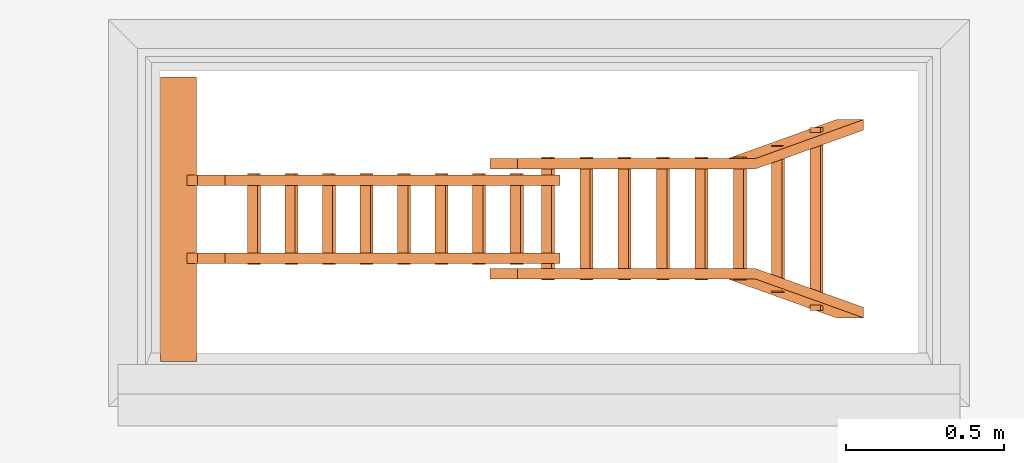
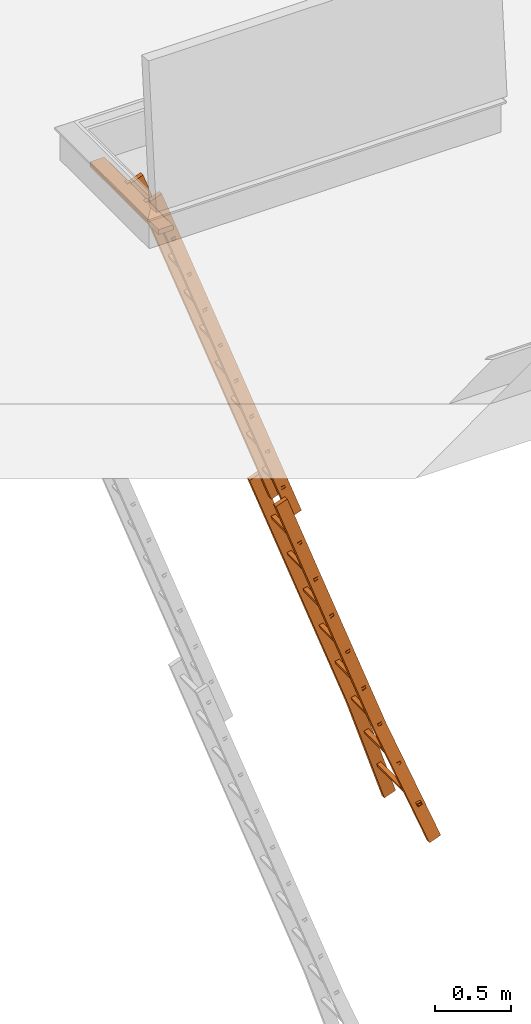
# One storey, part 4 of 28: 1 proxy, 2 openings.
"""IFC2X3 building model written with IfcOpenShell, lengths in millimetres."""

from ifc_helpers import new_model, entity, si_unit, converted_unit, derived_unit, direction, frame, frame_2d, origin, origin_2d_with_axis, place, context, subcontext, project, spatial, polyline, circle_curve, parameter, trimmed, segment, composite_curve, rectangle, outline, extrude, source, transform, mapped, type_object, type_shapes, element, save


model = new_model("IFC2X3")

# Units and contexts
model_context = context("Model", 3, precision=0.01, world=origin(), true_north=direction((6.12303176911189e-17, 1.0)))
body_context = subcontext(model_context, "Body", "Model", "MODEL_VIEW")
ifc_project = project(units=[si_unit("LENGTHUNIT", "METRE", prefix="MILLI"), si_unit("AREAUNIT", "SQUARE_METRE"), si_unit("VOLUMEUNIT", "CUBIC_METRE"), converted_unit("PLANEANGLEUNIT", "DEGREE", entity("IfcRatioMeasure", 0.0174532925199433), si_unit("PLANEANGLEUNIT", "RADIAN"), dimensions=[0, 0, 0, 0, 0, 0, 0]), si_unit("MASSUNIT", "GRAM", prefix="KILO"), derived_unit("MASSDENSITYUNIT", [(si_unit("MASSUNIT", "GRAM", prefix="KILO"), 1), (si_unit("LENGTHUNIT", "METRE"), -3)]), si_unit("TIMEUNIT", "SECOND"), si_unit("FREQUENCYUNIT", "HERTZ"), si_unit("THERMODYNAMICTEMPERATUREUNIT", "DEGREE_CELSIUS"), derived_unit("THERMALTRANSMITTANCEUNIT", [(si_unit("MASSUNIT", "GRAM", prefix="KILO"), 1), (si_unit("THERMODYNAMICTEMPERATUREUNIT", "KELVIN"), -1), (si_unit("TIMEUNIT", "SECOND"), -3)]), derived_unit("VOLUMETRICFLOWRATEUNIT", [(si_unit("LENGTHUNIT", "METRE"), 3), (si_unit("TIMEUNIT", "SECOND"), -1)]), si_unit("ELECTRICCURRENTUNIT", "AMPERE"), si_unit("ELECTRICVOLTAGEUNIT", "VOLT"), si_unit("POWERUNIT", "WATT"), si_unit("FORCEUNIT", "NEWTON", prefix="KILO"), si_unit("ILLUMINANCEUNIT", "LUX"), si_unit("LUMINOUSFLUXUNIT", "LUMEN"), si_unit("LUMINOUSINTENSITYUNIT", "CANDELA"), derived_unit("USERDEFINED", [(si_unit("MASSUNIT", "GRAM", prefix="KILO"), -1), (si_unit("LENGTHUNIT", "METRE"), -2), (si_unit("TIMEUNIT", "SECOND"), 3), (si_unit("LUMINOUSFLUXUNIT", "LUMEN"), 1)]), derived_unit("LINEARVELOCITYUNIT", [(si_unit("LENGTHUNIT", "METRE"), 1), (si_unit("TIMEUNIT", "SECOND"), -1)]), si_unit("PRESSUREUNIT", "PASCAL"), derived_unit("USERDEFINED", [(si_unit("LENGTHUNIT", "METRE"), -2), (si_unit("MASSUNIT", "GRAM", prefix="KILO"), 1), (si_unit("TIMEUNIT", "SECOND"), -2)])], contexts=[model_context])

# Site, building, storey
site_placement = place(None, origin())
site = spatial("IfcSite", under=ifc_project, at=site_placement, Name="Default", CompositionType="ELEMENT")
building_placement = place(site_placement, origin())
building = spatial("IfcBuilding", under=site, at=building_placement, CompositionType="ELEMENT")
storey_placement = place(building_placement, frame((0.0, 0.0, 4000.0)))
storey = spatial("IfcBuildingStorey", under=building, at=storey_placement, Name="Level 2", CompositionType="ELEMENT", Elevation=4000.0)

# Proxy, openings
building_element_proxy_type = type_object("IfcBuildingElementProxyType", Name="9_Topaccess_Trap_2delige1", PredefinedType="NOTDEFINED")
shared_shape = source(origin(), body_context, "Body", "SweptSolid", [
    extrude(outline(composite_curve([segment(polyline([(-20.0, -72.7589570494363), (20.0, -72.7589570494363)]), True, "CONTINUOUS"), segment(polyline([(20.0, -72.7589570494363), (20.0, 31.9980683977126)]), True, "CONTINUOUS"), segment(trimmed(circle_curve(frame_2d((10.2609571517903, 30.9957536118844), x_axis=(0.939692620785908, -0.342020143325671)), 9.79048469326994), [parameter(25.876031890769)], [parameter(105.876031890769)], True, "PARAMETER"), True, "CONTINUOUS"), segment(polyline([(10.9650368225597, 40.760888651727), (-10.9650368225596, 40.760888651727)]), True, "CONTINUOUS"), segment(trimmed(circle_curve(frame_2d((-10.2609571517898, 30.9957536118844), x_axis=(0.939692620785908, -0.342020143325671)), 9.79048469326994), [parameter(114.123968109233)], [parameter(194.123968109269)], True, "PARAMETER"), True, "CONTINUOUS"), segment(polyline([(-20.0, 31.9980683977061), (-20.0, -72.7589570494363)]), True, "CONTINUOUS")], self_intersect=False)), frame((-484.291584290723, -2.37763803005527, 9.64187826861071), z_axis=(1.0, 0.0, 0.0), x_axis=(0.0, 0.939692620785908, 0.34202014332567)), (0.0, 0.0, 1.0), 900.0),
    extrude(outline(composite_curve([segment(polyline([(-21.0941155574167, -85.4663572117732), (-18.0941155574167, -85.4663572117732)]), True, "CONTINUOUS"), segment(polyline([(-18.0941155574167, -85.4663572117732), (-18.0941155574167, 34.533772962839)]), True, "CONTINUOUS"), segment(trimmed(circle_curve(frame_2d((0.281515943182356, 34.5337729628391), x_axis=(0.0, 1.0)), 18.3756315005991), [parameter(284.219953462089)], [parameter(90.0000000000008)], True, "PARAMETER"), False, "CONTINUOUS"), segment(polyline([(18.0941155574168, 39.047654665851), (18.0941155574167, 11.7050015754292)]), True, "CONTINUOUS"), segment(polyline([(18.0941155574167, 11.7050015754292), (21.0941155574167, 11.7050015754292)]), True, "CONTINUOUS"), segment(polyline([(21.0941155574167, 11.7050015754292), (21.0941155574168, 39.4075106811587)]), True, "CONTINUOUS"), segment(trimmed(circle_curve(frame_2d((0.281515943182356, 34.5337729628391), x_axis=(0.0, 1.0)), 21.3756315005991), [parameter(283.179609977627)], [parameter(89.9999999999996)], True, "PARAMETER"), True, "CONTINUOUS"), segment(polyline([(-21.0941155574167, 34.5337729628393), (-21.0941155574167, -85.4663572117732)]), True, "CONTINUOUS")], self_intersect=False)), frame((72.0, -40.2373925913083, 36.9030783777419), z_axis=(1.0, 0.0, 0.0), x_axis=(0.0, 0.0, -1.0)), (0.0, 0.0, 1.0), 33.0),
    extrude(outline(composite_curve([segment(polyline([(-34.5337729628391, -21.0941155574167), (85.4663572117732, -21.0941155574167)]), True, "CONTINUOUS"), segment(polyline([(85.4663572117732, -21.0941155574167), (85.4663572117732, -18.0941155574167)]), True, "CONTINUOUS"), segment(polyline([(85.4663572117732, -18.0941155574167), (-34.5337729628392, -18.0941155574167)]), True, "CONTINUOUS"), segment(trimmed(circle_curve(frame_2d((-34.5337729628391, 0.281515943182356), x_axis=(-1.0, 0.0)), 18.3756315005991), [parameter(284.219953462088)], [parameter(90.0)], True, "PARAMETER"), False, "CONTINUOUS"), segment(polyline([(-39.047654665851, 18.0941155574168), (-11.7050015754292, 18.0941155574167)]), True, "CONTINUOUS"), segment(polyline([(-11.7050015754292, 18.0941155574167), (-11.7050015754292, 21.0941155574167)]), True, "CONTINUOUS"), segment(polyline([(-11.7050015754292, 21.0941155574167), (-39.407510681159, 21.0941155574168)]), True, "CONTINUOUS"), segment(trimmed(circle_curve(frame_2d((-34.5337729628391, 0.281515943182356), x_axis=(-1.0, 0.0)), 21.3756315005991), [parameter(283.179609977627)], [parameter(89.9999999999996)], True, "PARAMETER"), True, "CONTINUOUS")], self_intersect=False)), frame((-175.0, -40.2373925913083, 36.9030783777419), z_axis=(1.0, 0.0, 0.0), x_axis=(0.0, -1.0, 0.0)), (0.0, 0.0, 1.0), 33.0000000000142),
    extrude(rectangle(XDim=33.0000000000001, YDim=3099.99999999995, at=frame_2d((-3.30000000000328, 283.551511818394), x_axis=(1.0, 0.0))), frame((85.2, -1266.44848818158, 58.0), z_axis=(0.0, 0.0, 1.0), x_axis=(-1.0, 0.0, 0.0)), (0.0, 0.0, 1.0), 92.0),
    extrude(rectangle(XDim=3099.99999999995, YDim=33.0000000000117, at=frame_2d((-283.551511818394, 3.30000000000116), x_axis=(1.0, 0.0))), frame((-155.19999999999, -1266.44848818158, 58.0), z_axis=(0.0, 0.0, 1.0), x_axis=(0.0, 1.0, 0.0)), (0.0, 0.0, 1.0), 92.0),
    extrude(outline(polyline([(-11.5216143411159, -16.5000000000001), (13.8405381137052, -16.5000000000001), (13.8405381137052, 16.5), (-16.1594618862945, 16.5000000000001), (-11.5216143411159, -16.5000000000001)]), holes=[polyline([(8.84053811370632, -11.5000000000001), (-7.1751806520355, -11.5000000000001), (-10.4076198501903, 11.5000000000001), (8.84053811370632, 11.5), (8.84053811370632, -11.5000000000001)])]), frame((-227.077291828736, -3293.01909964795, 39.0843884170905), z_axis=(1.0, 0.0, 0.0), x_axis=(0.0, -1.0, 0.0)), (0.0, 0.0, 1.0), 389.077291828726),
    extrude(outline(polyline([(-11.5216143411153, -16.5000000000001), (13.8405381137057, -16.5000000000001), (13.8405381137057, 16.5), (-16.159461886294, 16.5000000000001), (-11.5216143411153, -16.5000000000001)]), holes=[polyline([(8.84053811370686, -11.5000000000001), (-7.17518065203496, -11.5000000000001), (-10.4076198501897, 11.5000000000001), (8.84053811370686, 11.5), (8.84053811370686, -11.5000000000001)])]), frame((-227.077291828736, -3648.01909964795, 39.0843884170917), z_axis=(1.0, 0.0, 0.0), x_axis=(0.0, -1.0, 0.0)), (0.0, 0.0, 1.0), 389.077291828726),
    extrude(outline(polyline([(-11.5216143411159, -16.5000000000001), (13.8405381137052, -16.5000000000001), (13.8405381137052, 16.5), (-16.1594618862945, 16.5000000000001), (-11.5216143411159, -16.5000000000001)]), holes=[polyline([(8.84053811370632, -11.5000000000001), (-7.1751806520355, -11.5000000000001), (-10.4076198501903, 11.5000000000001), (8.84053811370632, 11.5), (8.84053811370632, -11.5000000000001)])]), frame((-227.077291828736, -4003.01909964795, 39.0843884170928), z_axis=(1.0, 0.0, 0.0), x_axis=(0.0, -1.0, 0.0)), (0.0, 0.0, 1.0), 389.077291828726),
    extrude(outline(polyline([(-11.5216143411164, -16.5000000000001), (13.8405381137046, -16.5000000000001), (13.8405381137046, 16.5), (-16.159461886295, 16.5000000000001), (-11.5216143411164, -16.5000000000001)]), holes=[polyline([(8.84053811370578, -11.5000000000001), (-7.17518065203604, -11.5000000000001), (-10.4076198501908, 11.5000000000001), (8.84053811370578, 11.5), (8.84053811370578, -11.5000000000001)])]), frame((-227.077291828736, -4358.01909964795, 39.0843884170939), z_axis=(1.0, 0.0, 0.0), x_axis=(0.0, -1.0, 0.0)), (0.0, 0.0, 1.0), 389.077291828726),
    extrude(outline(polyline([(-11.5216143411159, -16.5000000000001), (13.8405381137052, -16.5000000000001), (13.8405381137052, 16.5), (-16.1594618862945, 16.5000000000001), (-11.5216143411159, -16.5000000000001)]), holes=[polyline([(8.84053811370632, -11.5000000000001), (-7.1751806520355, -11.5000000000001), (-10.4076198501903, 11.5000000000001), (8.84053811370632, 11.5), (8.84053811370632, -11.5000000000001)])]), frame((-227.077291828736, -4713.01909964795, 39.0843884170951), z_axis=(1.0, 0.0, 0.0), x_axis=(0.0, -1.0, 0.0)), (0.0, 0.0, 1.0), 389.077291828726),
    extrude(outline(polyline([(-11.5216143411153, -16.5000000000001), (13.8405381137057, -16.5000000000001), (13.8405381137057, 16.5), (-16.159461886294, 16.5000000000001), (-11.5216143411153, -16.5000000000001)]), holes=[polyline([(8.84053811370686, -11.5000000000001), (-7.17518065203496, -11.5000000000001), (-10.4076198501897, 11.5000000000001), (8.84053811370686, 11.5), (8.84053811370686, -11.5000000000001)])]), frame((-227.077291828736, -5068.01909964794, 39.0843884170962), z_axis=(1.0, 0.0, 0.0), x_axis=(0.0, -1.0, 0.0)), (0.0, 0.0, 1.0), 389.077291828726),
    extrude(outline(polyline([(-11.5216143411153, -16.5000000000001), (13.8405381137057, -16.5000000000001), (13.8405381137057, 16.5), (-16.159461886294, 16.5000000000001), (-11.5216143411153, -16.5000000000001)]), holes=[polyline([(8.84053811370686, -11.5000000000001), (-7.17518065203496, -11.5000000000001), (-10.4076198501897, 11.5000000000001), (8.84053811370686, 11.5), (8.84053811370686, -11.5000000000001)])]), frame((-266.000121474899, -5423.01909964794, 39.0843884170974), z_axis=(1.0, 0.0, 0.0), x_axis=(0.0, -1.0, 0.0)), (0.0, 0.0, 1.0), 465.000121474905),
    extrude(outline(polyline([(-11.5216143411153, -16.5000000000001), (13.8405381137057, -16.5000000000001), (13.8405381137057, 16.5), (-16.159461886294, 16.5000000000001), (-11.5216143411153, -16.5000000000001)]), holes=[polyline([(8.84053811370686, -11.5000000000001), (-7.17518065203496, -11.5000000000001), (-10.4076198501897, 11.5000000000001), (8.84053811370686, 11.5), (8.84053811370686, -11.5000000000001)])]), frame((-323.951711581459, -5778.01909964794, 39.0843884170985), z_axis=(1.0, 0.0, 0.0), x_axis=(0.0, -1.0, 0.0)), (0.0, 0.0, 1.0), 580.345535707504),
    extrude(outline(polyline([(388.026880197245, -105.667736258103), (1398.54073073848, -105.667736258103), (1402.59262124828, -72.6677362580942), (392.048568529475, -72.9137132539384), (-1788.59355619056, 194.835472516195), (-1792.61524452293, 162.081449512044), (388.026880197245, -105.667736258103)])), frame((181.59152386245, -4696.74475844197, -12.0), z_axis=(0.0, 0.0, 1.0), x_axis=(0.121869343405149, -0.992546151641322, 0.0)), (0.0, 0.0, 1.0), 92.0),
    extrude(outline(polyline([(390.379133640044, 72.7087324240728), (1402.92650822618, 72.7087324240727), (1398.87461771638, 105.708732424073), (388.360767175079, 105.708732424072), (-1792.28135754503, -162.040453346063), (-1788.25966921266, -194.794476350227), (390.379133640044, 72.7087324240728)])), frame((-247.591523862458, -4696.40836403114, -12.0), z_axis=(0.0, 0.0, 1.0), x_axis=(-0.121869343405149, -0.992546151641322, 0.0)), (0.0, 0.0, 1.0), 92.0),
    extrude(outline(polyline([(-11.5216143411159, -16.5), (13.8405381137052, -16.5), (13.8405381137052, 16.5), (-16.1594618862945, 16.5000000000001), (-11.5216143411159, -16.5)]), holes=[polyline([(8.84053811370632, -11.5), (-7.17518065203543, -11.5), (-10.4076198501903, 11.5), (8.84053811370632, 11.5), (8.84053811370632, -11.5)])]), frame((-178.583168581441, -401.863211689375, 101.084388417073), z_axis=(1.0, 0.0, 0.0), x_axis=(0.0, -1.0, 0.0)), (0.0, 0.0, 1.0), 288.583168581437),
    extrude(outline(polyline([(-11.5216143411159, -16.5), (13.8405381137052, -16.5), (13.8405381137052, 16.5), (-16.1594618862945, 16.5000000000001), (-11.5216143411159, -16.5)]), holes=[polyline([(8.84053811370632, -11.5), (-7.1751806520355, -11.5), (-10.4076198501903, 11.5000000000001), (8.84053811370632, 11.5), (8.84053811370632, -11.5)])]), frame((-178.583168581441, -749.363211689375, 101.084388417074), z_axis=(1.0, 0.0, 0.0), x_axis=(0.0, -1.0, 0.0)), (0.0, 0.0, 1.0), 288.583168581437),
    extrude(outline(polyline([(-11.5216143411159, -16.5), (13.8405381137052, -16.5), (13.8405381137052, 16.5), (-16.1594618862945, 16.5000000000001), (-11.5216143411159, -16.5)]), holes=[polyline([(8.84053811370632, -11.5), (-7.1751806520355, -11.5), (-10.4076198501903, 11.5), (8.84053811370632, 11.5), (8.84053811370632, -11.5)])]), frame((-178.583168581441, -1096.86321168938, 101.084388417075), z_axis=(1.0, 0.0, 0.0), x_axis=(0.0, -1.0, 0.0)), (0.0, 0.0, 1.0), 288.583168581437),
    extrude(outline(polyline([(-11.5216143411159, -16.5), (13.8405381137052, -16.5), (13.8405381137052, 16.5), (-16.1594618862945, 16.5000000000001), (-11.5216143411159, -16.5)]), holes=[polyline([(8.84053811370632, -11.5), (-7.1751806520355, -11.5), (-10.4076198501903, 11.5000000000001), (8.84053811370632, 11.5), (8.84053811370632, -11.5)])]), frame((-178.583168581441, -1444.36321168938, 101.084388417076), z_axis=(1.0, 0.0, 0.0), x_axis=(0.0, -1.0, 0.0)), (0.0, 0.0, 1.0), 288.583168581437),
    extrude(outline(polyline([(-11.5216143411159, -16.5), (13.8405381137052, -16.5), (13.8405381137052, 16.5), (-16.1594618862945, 16.5000000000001), (-11.5216143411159, -16.5)]), holes=[polyline([(8.84053811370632, -11.5), (-7.1751806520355, -11.5), (-10.4076198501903, 11.5000000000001), (8.84053811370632, 11.5), (8.84053811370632, -11.5)])]), frame((-178.583168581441, -1791.86321168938, 101.084388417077), z_axis=(1.0, 0.0, 0.0), x_axis=(0.0, -1.0, 0.0)), (0.0, 0.0, 1.0), 288.583168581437),
    extrude(outline(polyline([(-11.5216143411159, -16.5), (13.8405381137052, -16.5), (13.8405381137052, 16.5), (-16.1594618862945, 16.5000000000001), (-11.5216143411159, -16.5)]), holes=[polyline([(8.84053811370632, -11.5), (-7.1751806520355, -11.5), (-10.4076198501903, 11.5000000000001), (8.84053811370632, 11.5), (8.84053811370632, -11.5)])]), frame((-178.583168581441, -2139.36321168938, 101.084388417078), z_axis=(1.0, 0.0, 0.0), x_axis=(0.0, -1.0, 0.0)), (0.0, 0.0, 1.0), 288.583168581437),
    extrude(outline(polyline([(-11.5216143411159, -16.5), (13.8405381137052, -16.5), (13.8405381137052, 16.5), (-16.1594618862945, 16.5000000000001), (-11.5216143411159, -16.5)]), holes=[polyline([(8.84053811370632, -11.5), (-7.1751806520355, -11.5), (-10.4076198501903, 11.5), (8.84053811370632, 11.5), (8.84053811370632, -11.5)])]), frame((-178.583168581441, -2486.86321168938, 101.084388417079), z_axis=(1.0, 0.0, 0.0), x_axis=(0.0, -1.0, 0.0)), (0.0, 0.0, 1.0), 288.583168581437),
    extrude(outline(polyline([(-11.5216143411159, -16.5), (13.8405381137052, -16.5), (13.8405381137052, 16.5), (-16.1594618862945, 16.5000000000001), (-11.5216143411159, -16.5)]), holes=[polyline([(8.84053811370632, -11.5), (-7.1751806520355, -11.5), (-10.4076198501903, 11.5000000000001), (8.84053811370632, 11.5), (8.84053811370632, -11.5)])]), frame((-178.583168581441, -2834.36321168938, 101.08438841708), z_axis=(1.0, 0.0, 0.0), x_axis=(0.0, -1.0, 0.0)), (0.0, 0.0, 1.0), 288.583168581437),
])
type_shapes(building_element_proxy_type, [shared_shape])
proxy_placement = place(storey_placement, frame((-19338.7585542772, 5888.78291615, 411.357021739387), z_axis=(0.939692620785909, 0.0, 0.342020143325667), x_axis=(0.0, 1.0, 0.0)))
proxy = element("IfcBuildingElementProxy", 1, at=proxy_placement, inside=storey, type_object=building_element_proxy_type, Name="9_Topaccess_Trap_2delige1:9_Topaccess_Trap_2delige1", ObjectType="9_Topaccess_Trap_2delige1", context=body_context, shape_type="MappedRepresentation", body=[
    mapped(shared_shape, transform((0.0, 0.0, 0.0), scale=1.0)),
])
opening_1_placement = place(storey_placement, frame((-19338.7585542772, 5888.78291615, 4411.35702173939), z_axis=(0.321393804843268, 0.939692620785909, 0.11697777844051), x_axis=(-0.342020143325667, 0.0, 0.939692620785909)))
element("IfcOpeningElement", 2, at=opening_1_placement, cuts=proxy, Name="9_Topaccess_Trap_2delige1:9_Topaccess_Trap_2delige1:1", ObjectType="Opening", context=body_context, shape_type="SweptSolid", body=[
    extrude(rectangle(XDim=42.5298592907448, YDim=59.0000000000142, at=frame_2d((0.0, 3.37507799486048e-14), x_axis=(1.0, 0.0))), frame((-20.7510961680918, -3703.01313199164, -1516.45873407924), z_axis=(0.939692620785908, 0.321393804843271, 0.116977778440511), x_axis=(0.34202014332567, -0.883022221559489, -0.321393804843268)), (0.0, 0.0, 1.0), 40.0),
])
opening_2_placement = place(storey_placement, frame((-19338.7585542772, 5888.78291615, 4411.35702173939), z_axis=(0.321393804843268, 0.939692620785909, 0.11697777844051), x_axis=(-0.342020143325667, 0.0, 0.939692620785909)))
element("IfcOpeningElement", 3, at=opening_2_placement, cuts=proxy, Name="9_Topaccess_Trap_2delige1:9_Topaccess_Trap_2delige1:2", ObjectType="Opening", context=body_context, shape_type="SweptSolid", body=[
    extrude(rectangle(XDim=42.5298592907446, YDim=59.0000000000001, at=origin_2d_with_axis()), frame((-20.7510961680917, -3787.49210739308, -1284.35465674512), z_axis=(0.939692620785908, 0.321393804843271, 0.116977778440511), x_axis=(0.34202014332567, -0.883022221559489, -0.321393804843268)), (0.0, 0.0, 1.0), 40.0),
])

save(model, "model.ifc")
